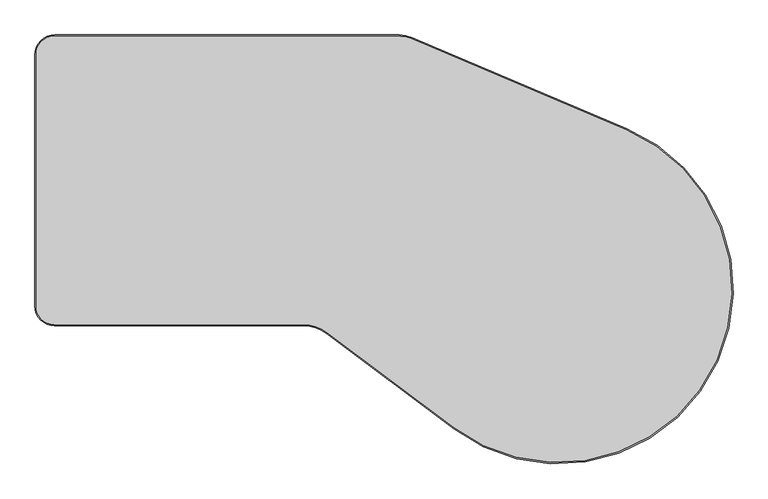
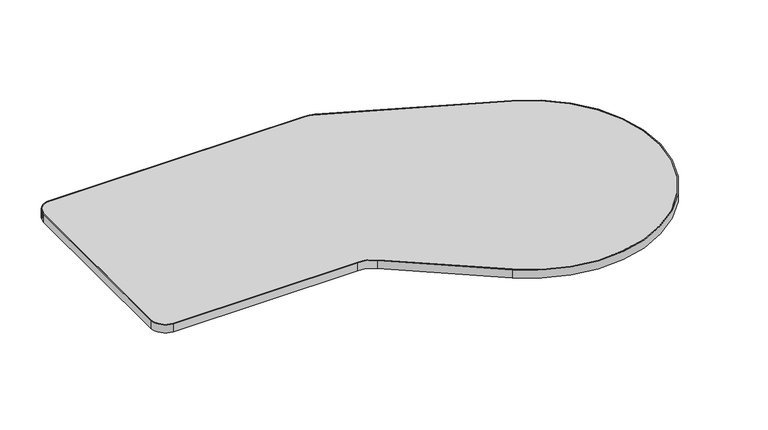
"""IFC4 building model written with IfcOpenShell, lengths in millimetres: furniture geometry, Steelcase - Answer Solution - Universal Table - Bubble Jetty - 3mm Edge : 30D x 72W - Right."""

import ifcopenshell
import ifcopenshell.guid

model = None  # the IFC model being written
_history = None  # IfcOwnerHistory: only IFC2X3 demands one
_inside = {}  # id of a spatial element -> (the spatial element, [elements in it])
_under = {}  # id of a project, library or spatial element -> (it, [spatial elements below it])
_declared = {}  # id of a project -> (the project, [libraries it declares])
_typed = {}  # id of a type object -> (the type object, [elements of that type])
_made_of = {}  # id of a material, layer set ... -> (it, [elements and type objects made of it])


def new_model(schema):
    """Start an empty IFC model of exactly this schema.

    Asked for "IFC4X3", IfcOpenShell would pick the latest addendum, in which some entities
    have other attributes; the version numbers below select the first issue.
    IFC2X3 requires an IfcOwnerHistory on every rooted entity: one is made here for all.
    """
    global model, _history
    if schema == "IFC4X3":
        model = ifcopenshell.file(schema_version=(4, 3, 0, 0))
    else:
        model = ifcopenshell.file(schema=schema)
    _inside.clear()
    _under.clear()
    _declared.clear()
    _typed.clear()
    _made_of.clear()
    _history = None
    if model.schema == "IFC2X3":
        org = make("IfcOrganization", Name="unknown")
        user = make(
            "IfcPersonAndOrganization",
            ThePerson=make("IfcPerson", FamilyName="unknown"),
            TheOrganization=org,
        )
        app = make(
            "IfcApplication",
            ApplicationDeveloper=org,
            Version="unknown",
            ApplicationFullName="unknown",
            ApplicationIdentifier="unknown",
        )
        _history = make(
            "IfcOwnerHistory",
            OwningUser=user,
            OwningApplication=app,
            ChangeAction="ADDED",
            CreationDate=0,
        )
    return model


def make(cls, **values):
    """One entity of the class cls with the attributes given. An attribute that is None is left unset."""
    return model.create_entity(
        cls, **{name: value for name, value in values.items() if value is not None}
    )


def rooted(cls, **values):
    """An entity with a GlobalId (a new one), such as an element, a storey or a relation."""
    return make(cls, GlobalId=ifcopenshell.guid.new(), OwnerHistory=_history, **values)


def si_unit(unit_type, name, prefix=None):
    """IfcSIUnit, for example si_unit("LENGTHUNIT", "METRE", prefix="MILLI")."""
    return make("IfcSIUnit", UnitType=unit_type, Prefix=prefix, Name=name)


def assignment(units):
    """IfcUnitAssignment: the units of a project."""
    return None if units is None else make("IfcUnitAssignment", Units=units)


def point(xyz):
    """IfcCartesianPoint."""
    return None if xyz is None else make("IfcCartesianPoint", Coordinates=xyz)


def direction(xyz):
    """IfcDirection."""
    return None if xyz is None else make("IfcDirection", DirectionRatios=xyz)


def frame(location, z_axis=None, x_axis=None):
    """IfcAxis2Placement3D, a coordinate frame: its origin and axes. An axis left out is left unset."""
    return make(
        "IfcAxis2Placement3D",
        Location=point(location),
        Axis=direction(z_axis),
        RefDirection=direction(x_axis),
    )


def frame_2d(location, x_axis=None):
    """IfcAxis2Placement2D, a coordinate frame in the plane: its origin and x axis."""
    return make(
        "IfcAxis2Placement2D", Location=point(location), RefDirection=direction(x_axis)
    )


def origin():
    """The frame at (0, 0, 0) with its axes left unset."""
    return frame((0.0, 0.0, 0.0))


def place(relative_to, where):
    """IfcLocalPlacement: puts the frame where relative to a parent placement (None: the world)."""
    return make(
        "IfcLocalPlacement", PlacementRelTo=relative_to, RelativePlacement=where
    )


def context(
    kind, dimensions, precision=None, world=None, true_north=None, identifier=None
):
    """IfcGeometricRepresentationContext, for example the 3D "Model" context."""
    return make(
        "IfcGeometricRepresentationContext",
        ContextIdentifier=identifier,
        ContextType=kind,
        CoordinateSpaceDimension=dimensions,
        Precision=precision,
        WorldCoordinateSystem=world,
        TrueNorth=true_north,
    )


def project(units=None, contexts=None):
    """IfcProject with its units and contexts."""
    return rooted(
        "IfcProject",
        Name="project",
        RepresentationContexts=contexts,
        UnitsInContext=assignment(units),
    )


def spatial(cls, under=None, at=None, **own):
    """A site, building, storey or space (cls), placed at a placement, below another one or the project."""
    s = rooted(cls, ObjectPlacement=at, **own)
    if under is not None:
        _under.setdefault(under.id(), (under, []))[1].append(s)
    return s


def polyline(points):
    """IfcPolyline through the points."""
    return make("IfcPolyline", Points=[point(p) for p in points])


def circle_curve(where, radius):
    """IfcCircle in the frame where."""
    return make("IfcCircle", Position=where, Radius=radius)


def trimmed(basis, trim1, trim2, sense, master):
    """IfcTrimmedCurve: the piece of a basis curve between two trims."""
    return make(
        "IfcTrimmedCurve",
        BasisCurve=basis,
        Trim1=trim1,
        Trim2=trim2,
        SenseAgreement=sense,
        MasterRepresentation=master,
    )


def segment(curve, same_sense, transition):
    """IfcCompositeCurveSegment."""
    return make(
        "IfcCompositeCurveSegment",
        Transition=transition,
        SameSense=same_sense,
        ParentCurve=curve,
    )


def composite_curve(segments, self_intersect=None):
    """IfcCompositeCurve: segments joined end to end."""
    return make("IfcCompositeCurve", Segments=segments, SelfIntersect=self_intersect)


def outline(outer, holes=None, kind="AREA"):
    """IfcArbitraryClosedProfileDef: a profile drawn as a closed curve; with holes, ...WithVoids."""
    if holes is None:
        return make("IfcArbitraryClosedProfileDef", ProfileType=kind, OuterCurve=outer)
    return make(
        "IfcArbitraryProfileDefWithVoids",
        ProfileType=kind,
        OuterCurve=outer,
        InnerCurves=holes,
    )


def extrude(swept, where, along, depth):
    """IfcExtrudedAreaSolid: the profile swept, set in the frame where, extruded along a direction by depth."""
    return make(
        "IfcExtrudedAreaSolid",
        SweptArea=swept,
        Position=where,
        ExtrudedDirection=direction(along),
        Depth=depth,
    )


def shape(context_of_items, identifier, shape_type, items):
    """IfcShapeRepresentation: the items that make up one representation, for example the "Body"."""
    return make(
        "IfcShapeRepresentation",
        ContextOfItems=context_of_items,
        RepresentationIdentifier=identifier,
        RepresentationType=shape_type,
        Items=items,
    )


def source(mapping_origin, context_of_items, identifier, shape_type, items):
    """IfcRepresentationMap: a shape defined once, which mapped items show again and again."""
    return make(
        "IfcRepresentationMap",
        MappingOrigin=mapping_origin,
        MappedRepresentation=shape(context_of_items, identifier, shape_type, items),
    )


def transform(
    local_origin,
    x_axis=None,
    y_axis=None,
    z_axis=None,
    scale=None,
    scale2=None,
    scale3=None,
    uniform=True,
):
    """IfcCartesianTransformationOperator3D, or its non-uniform kind. x_axis, y_axis, z_axis: its Axis1, 2, 3."""
    if uniform:
        return make(
            "IfcCartesianTransformationOperator3D",
            Axis1=direction(x_axis),
            Axis2=direction(y_axis),
            LocalOrigin=point(local_origin),
            Scale=scale,
            Axis3=direction(z_axis),
        )
    return make(
        "IfcCartesianTransformationOperator3DnonUniform",
        Axis1=direction(x_axis),
        Axis2=direction(y_axis),
        LocalOrigin=point(local_origin),
        Scale=scale,
        Axis3=direction(z_axis),
        Scale2=scale2,
        Scale3=scale3,
    )


def mapped(mapping_source, mapping_target):
    """IfcMappedItem: shows the shape of a source again, moved by a transform."""
    return make(
        "IfcMappedItem", MappingSource=mapping_source, MappingTarget=mapping_target
    )


def made_of(thing, what):
    """Note that an element or type object is made of a material, layer set ...; save() writes the relation."""
    if what is not None:
        _made_of.setdefault(what.id(), (what, []))[1].append(thing)
    return thing


def element(
    cls,
    number,
    at=None,
    inside=None,
    cuts=None,
    type_object=None,
    material=None,
    context=None,
    identifier="Body",
    shape_type=None,
    held_by="IfcProductDefinitionShape",
    body=None,
    shapes=None,
    **own,
):
    """One element of the class cls, such as IfcWall. Its Tag is "e" and its number.

    at: its placement. inside: the storey or other place that contains it. cuts: it is an
    opening in that element (IfcRelVoidsElement). A single representation is given by context,
    identifier, shape_type and body (its items); several are given by shapes. held_by: the class
    of the entity that holds the representations. save() writes the other relations.
    """
    e = rooted(cls, Tag="e%d" % number, ObjectPlacement=at, **own)
    if body is not None:
        shapes = [shape(context, identifier, shape_type, body)]
    if shapes is not None:
        e.Representation = make(held_by, Representations=shapes)
    if inside is not None:
        _inside.setdefault(inside.id(), (inside, []))[1].append(e)
    if cuts is not None:
        rooted(
            "IfcRelVoidsElement", RelatingBuildingElement=cuts, RelatedOpeningElement=e
        )
    if type_object is not None:
        _typed.setdefault(type_object.id(), (type_object, []))[1].append(e)
    return made_of(e, material)


def aggregate(whole, parts):
    """IfcRelAggregates: a whole, such as a stair, and the parts it consists of."""
    return rooted("IfcRelAggregates", RelatingObject=whole, RelatedObjects=parts)


def save(model, path):
    """Write the relations noted so far, then the file.

    IfcRelAggregates (storeys below a building ...), IfcRelContainedInSpatialStructure (elements
    in a storey), IfcRelDefinesByType, IfcRelAssociatesMaterial and IfcRelDeclares: one each for
    every whole, place, type object, material and project.
    """
    for whole, parts in _under.values():
        aggregate(whole, parts)
    for where, things in _inside.values():
        rooted(
            "IfcRelContainedInSpatialStructure",
            RelatedElements=things,
            RelatingStructure=where,
        )
    for kind, things in _typed.values():
        rooted("IfcRelDefinesByType", RelatedObjects=things, RelatingType=kind)
    for what, things in _made_of.values():
        rooted("IfcRelAssociatesMaterial", RelatedObjects=things, RelatingMaterial=what)
    for by, libraries in _declared.values():
        rooted("IfcRelDeclares", RelatingContext=by, RelatedDefinitions=libraries)
    model.write(path)


def furniture_8978cb52(model_context):
    return source(origin(), model_context, "Body", "SweptSolid", [
        extrude(outline(composite_curve([segment(trimmed(circle_curve(frame_2d((953.9450486, -88.9)), 88.9), [point((953.9450486, 0.0))], [point((988.6810459, -7.0671185))], False, "CARTESIAN"), True, "CONTINUOUS"), segment(polyline([(988.6810459, -7.0671185), (1550.7107551, -245.634576)]), True, "CONTINUOUS"), segment(trimmed(circle_curve(frame_2d((1372.0442318, -666.5465277)), 457.2620666), [point((1550.7107551, -245.634576))], [point((1097.5002406, -1032.216043))], False, "CARTESIAN"), True, "CONTINUOUS"), segment(polyline([(1097.5002406, -1032.216043), (763.3782105, -781.6379366)]), True, "CONTINUOUS"), segment(trimmed(circle_curve(frame_2d((704.4618773, -860.1972534)), 98.1972534), [point((763.3782105, -781.6379366))], [point((704.4618773, -762.0))], True, "CARTESIAN"), True, "CONTINUOUS"), segment(polyline([(704.4618773, -762.0), (50.8, -762.0)]), True, "CONTINUOUS"), segment(trimmed(circle_curve(frame_2d((50.8, -711.2)), 50.8), [point((50.8, -762.0))], [point((0.0, -711.2))], False, "CARTESIAN"), True, "CONTINUOUS"), segment(polyline([(0.0, -711.2), (0.0, -52.48308)]), True, "CONTINUOUS"), segment(trimmed(circle_curve(frame_2d((52.48308, -52.48308)), 52.48308), [point((0.0, -52.48308))], [point((52.48308, 0.0))], False, "CARTESIAN"), True, "CONTINUOUS"), segment(polyline([(52.48308, 0.0), (953.9450486, 0.0)]), True, "CONTINUOUS")], self_intersect=False), holes=[composite_curve([segment(trimmed(circle_curve(frame_2d((703.3262558, -863.5943802)), 104.6430313), [point((703.3262558, -758.9513489))], [point((766.1099232, -779.8783417))], False, "CARTESIAN"), True, "CONTINUOUS"), segment(polyline([(766.1099232, -779.8783417), (1099.1177948, -1029.620874)]), True, "CONTINUOUS"), segment(trimmed(circle_curve(frame_2d((1371.5678264, -666.2728333)), 454.1484541), [point((1099.1177948, -1029.620874))], [point((1549.0177644, -248.2269771))], True, "CARTESIAN"), True, "CONTINUOUS"), segment(polyline([(1549.0177644, -248.2269771), (985.1125443, -8.8634125)]), True, "CONTINUOUS"), segment(trimmed(circle_curve(frame_2d((956.5263638, -76.2082332)), 73.1607449), [point((985.1125443, -8.8634125))], [point((956.5263638, -3.0474883))], True, "CARTESIAN"), True, "CONTINUOUS"), segment(polyline([(956.5263638, -3.0474883), (50.7998062, -3.0474884)]), True, "CONTINUOUS"), segment(trimmed(circle_curve(frame_2d((50.7998062, -50.7992249)), 47.7517365), [point((50.7998062, -3.0474884))], [point((3.0480698, -50.7992249))], True, "CARTESIAN"), True, "CONTINUOUS"), segment(polyline([(3.0480698, -50.7992249), (3.0480698, -711.1996124)]), True, "CONTINUOUS"), segment(trimmed(circle_curve(frame_2d((50.7998062, -711.1996124)), 47.7517365), [point((3.0480698, -711.1996124))], [point((50.7998062, -758.9513489))], True, "CARTESIAN"), True, "CONTINUOUS"), segment(polyline([(50.7998062, -758.9513489), (703.3262558, -758.9513489)]), True, "CONTINUOUS")], self_intersect=False)]), frame((0.0, 0.0, 668.274), z_axis=(0.0, 0.0, 1.0), x_axis=(1.0, 0.0, 0.0)), (0.0, 0.0, 1.0), 30.0990349),
        extrude(outline(composite_curve([segment(trimmed(circle_curve(frame_2d((50.7998062, -50.7992249)), 47.7517365), [point((3.0480698, -50.7992249))], [point((50.7998062, -3.0474884))], False, "CARTESIAN"), True, "CONTINUOUS"), segment(polyline([(50.7998062, -3.0474884), (956.5263638, -3.0474884)]), True, "CONTINUOUS"), segment(trimmed(circle_curve(frame_2d((956.5263638, -76.2082332)), 73.1607449), [point((956.5263638, -3.0474884))], [point((985.1125443, -8.8634125))], False, "CARTESIAN"), True, "CONTINUOUS"), segment(polyline([(985.1125443, -8.8634125), (1549.0177644, -248.2269771)]), True, "CONTINUOUS"), segment(trimmed(circle_curve(frame_2d((1371.5678264, -666.2728333)), 454.1484541), [point((1549.0177644, -248.2269771))], [point((1099.1177948, -1029.620874))], False, "CARTESIAN"), True, "CONTINUOUS"), segment(polyline([(1099.1177948, -1029.620874), (766.1099232, -779.8783417)]), True, "CONTINUOUS"), segment(trimmed(circle_curve(frame_2d((703.3262558, -863.5943802)), 104.6430313), [point((766.1099232, -779.8783417))], [point((703.3262558, -758.9513489))], True, "CARTESIAN"), True, "CONTINUOUS"), segment(polyline([(703.3262558, -758.9513489), (50.7998062, -758.9513489)]), True, "CONTINUOUS"), segment(trimmed(circle_curve(frame_2d((50.7998062, -711.1996124)), 47.7517365), [point((50.7998062, -758.9513489))], [point((3.0480698, -711.1996124))], False, "CARTESIAN"), True, "CONTINUOUS"), segment(polyline([(3.0480698, -711.1996124), (3.0480698, -50.7992249)]), True, "CONTINUOUS")], self_intersect=False)), frame((0.0, 0.0, 668.274), z_axis=(0.0, 0.0, 1.0), x_axis=(1.0, 0.0, 0.0)), (0.0, 0.0, 1.0), 30.0990349),
    ])


if __name__ == "__main__":
    model = new_model("IFC4")
    model_context = context("Model", 3, world=origin())
    ifc_project = project(units=[si_unit("LENGTHUNIT", "METRE", prefix="MILLI")], contexts=[model_context])
    site = spatial("IfcSite", under=ifc_project)
    building = spatial("IfcBuilding", under=site)
    placement = place(None, origin())
    furniture_shape = furniture_8978cb52(model_context)
    element("IfcFurniture", 1, ObjectType="Steelcase - Answer Solution - Universal Table - Bubble Jetty - 3mm Edge : 30D x 72W - Right", at=placement, inside=building, context=model_context, shape_type="MappedRepresentation", body=[
        mapped(furniture_shape, transform((0.0, 0.0, 0.0), x_axis=(1.0, 0.0, 0.0), y_axis=(0.0, 1.0, 0.0), z_axis=(0.0, 0.0, 1.0))),
    ])
    save(model, "model.ifc")
